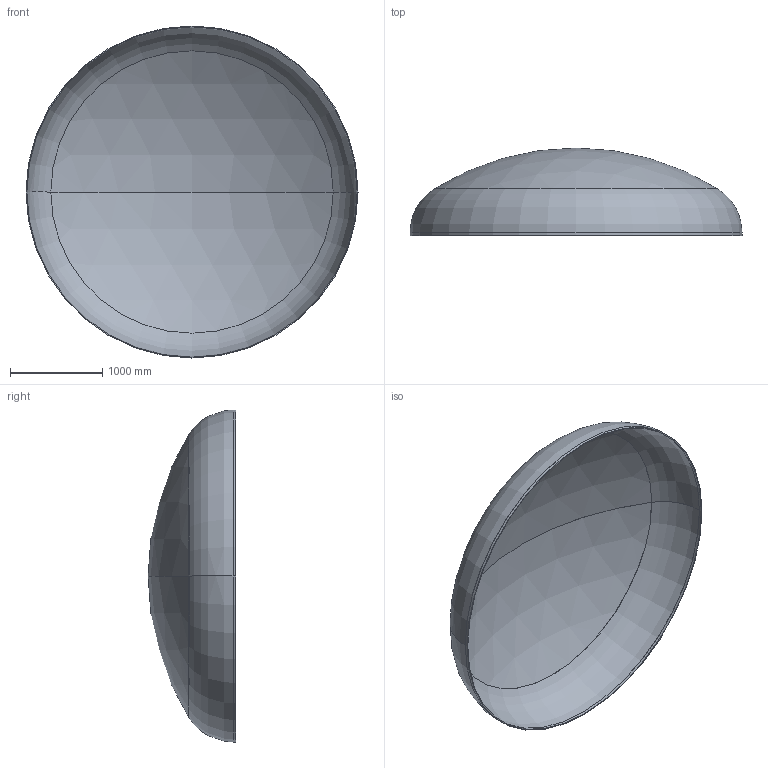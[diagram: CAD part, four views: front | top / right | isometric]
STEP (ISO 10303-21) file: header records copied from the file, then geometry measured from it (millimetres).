
FILE_DESCRIPTION (( 'STEP AP203' ), '1' );
FILE_NAME ('DIN 28013 Korbbogenform_-_Boden DIN 28013 - 3600 x 30 - I - s=9.step', '2016-07-01T20:03:49', ( '' ), ( '' ), 'SwSTEP 2.0', 'SolidWorks 2013', '' );
FILE_SCHEMA (( 'CONFIG_CONTROL_DESIGN' ));
Length unit declared in the file: millimetre
Products named in the file (1): DIN 28013 Korbbogenform_-_Boden DIN 28013 - 3600 x 30 - I - s=9
Bounding box: 3600 x 949.75 x 3600 mm (x, y, z)
Volume: 129541010.6 mm3; surface area: 28888582.3 mm2
Topology: 1 solids, 1 shells, 13 faces, 24 edges, 14 vertices
Faces by surface type: torus 4, cylinder 4, sphere 4, plane 1
Entity records: 407 total; most frequent: DIRECTION 72, CARTESIAN_POINT 52, ORIENTED_EDGE 48, AXIS2_PLACEMENT_3D 34, EDGE_CURVE 24, CIRCLE 20, EDGE_LOOP 14, VERTEX_POINT 14
